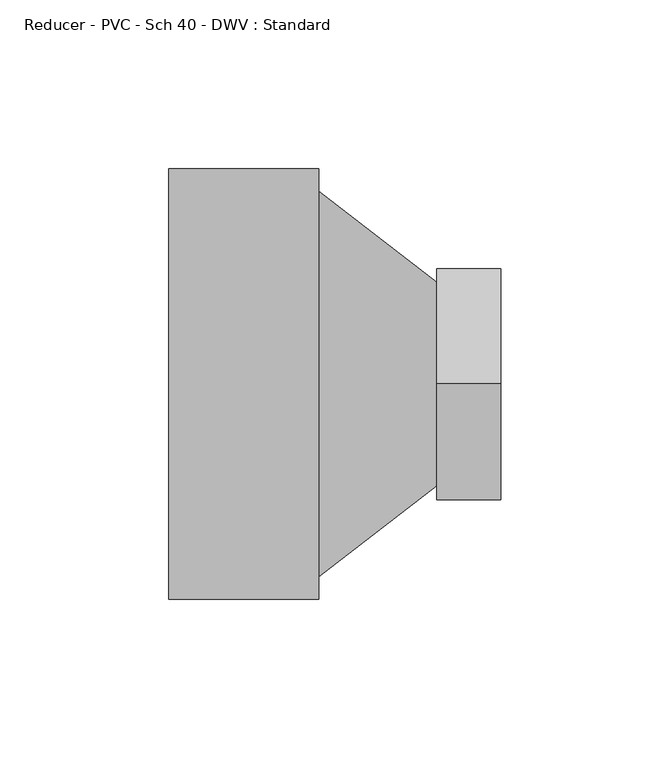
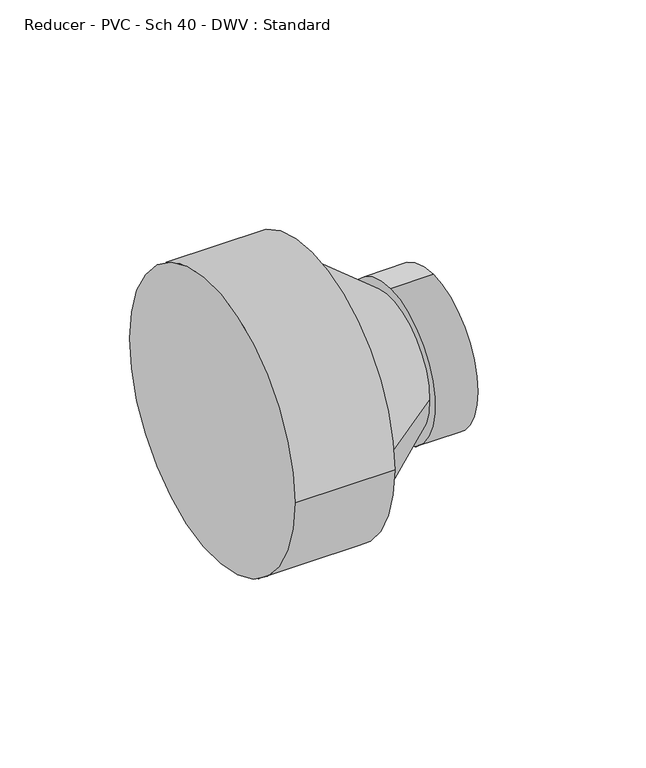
"""IFC4 building model written with IfcOpenShell, lengths in millimetres: pipe fitting geometry, Reducer - PVC - Sch 40 - DWV : Standard."""

from ifc_helpers import new_model, si_unit, frame, origin, place, context, project, spatial, circle_curve, source, transform, mapped, element, save
from ifc_brep_helpers import plane_surface, cylinder_surface, spline_surface, advanced_brep


def reducer_pvc_sch_40_dwv_standard_82007f57(model_context):
    return source(origin(), model_context, "Body", "AdvancedBrep", [
        advanced_brep(
        [(0.0, 63.754, 0.0), (0.0, -63.754, 0.0), (44.45, 63.754, 0.0), (44.45, -63.754, 0.0), (44.45, -57.15, 0.0), (44.45, 57.15, 0.0), (79.375, 30.1706806, 9.92e-05), (79.375, -30.1543194, 9.92e-05), (79.375, 0.0081806, 34.3154992), (79.375, 0.0081806, -34.3153008), (98.425, 0.0081806, 34.3154992), (98.425, 0.0081806, -34.3153008)],
        [
            (0, 1, circle_curve(frame((0.0, 0.0, 0.0), z_axis=(-1.0, 0.0, 0.0), x_axis=(0.0, -1.0, 0.0)), 63.754)),
            (1, 0, circle_curve(frame((0.0, 0.0, 0.0), z_axis=(-1.0, 0.0, 0.0), x_axis=(0.0, -1.0, 0.0)), 63.754)),
            (2, 3, circle_curve(frame((44.45, 0.0, 0.0), z_axis=(1.0, 0.0, 0.0), x_axis=(0.0, -1.0, 0.0)), 63.754)),
            (3, 2, circle_curve(frame((44.45, 0.0, 0.0), z_axis=(1.0, 0.0, 0.0), x_axis=(0.0, -1.0, 0.0)), 63.754)),
            (4, 5, circle_curve(frame((44.45, 0.0, 0.0), z_axis=(-1.0, 0.0, 0.0), x_axis=(0.0, -1.0, 0.0)), 57.15)),
            (5, 4, circle_curve(frame((44.45, 0.0, 0.0), z_axis=(-1.0, 0.0, 0.0), x_axis=(0.0, -1.0, 0.0)), 57.15)),
            (1, 3),
            (2, 0),
            (5, 6),
            (6, 7, circle_curve(frame((79.375, 0.0081806, 9.92e-05), z_axis=(-1.0, 0.0, 0.0), x_axis=(0.0, -1.0, 0.0)), 30.1625)),
            (7, 4),
            (7, 6, circle_curve(frame((79.375, 0.0081806, 9.92e-05), z_axis=(-1.0, 0.0, 0.0), x_axis=(0.0, -1.0, 0.0)), 30.1625)),
            (8, 9, circle_curve(frame((79.375, 0.0081806, 9.92e-05), z_axis=(-1.0, 0.0, 0.0), x_axis=(0.0, 0.0, -1.0)), 34.3154)),
            (9, 8, circle_curve(frame((79.375, 0.0081806, 9.92e-05), z_axis=(-1.0, 0.0, 0.0), x_axis=(0.0, 0.0, -1.0)), 34.3154)),
            (10, 11, circle_curve(frame((98.425, 0.0081806, 9.92e-05), z_axis=(1.0, 0.0, 0.0), x_axis=(0.0, 0.0, -1.0)), 34.3154)),
            (11, 10, circle_curve(frame((98.425, 0.0081806, 9.92e-05), z_axis=(1.0, 0.0, 0.0), x_axis=(0.0, 0.0, -1.0)), 34.3154)),
            (9, 11),
            (10, 8),
        ],
        [
            plane_surface(frame((0.0, 0.0, 0.0), z_axis=(-1.0, 0.0, 0.0), x_axis=(0.0, 0.0, 1.0))),
            plane_surface(frame((44.45, 0.0, 0.0), z_axis=(1.0, 0.0, 0.0), x_axis=(0.0, 0.0, 1.0))),
            cylinder_surface(frame((0.0, 0.0, 0.0), z_axis=(-1.0, 0.0, 0.0), x_axis=(0.0, -1.0, 0.0)), 63.754),
            spline_surface(1, 2, [[(44.45, 57.15, 0.0), (44.45, 57.15, -57.15), (44.45, 0.0, -57.15), (44.45, -57.15, -57.15), (44.45, -57.15, 0.0)], [(79.375, 30.1706806, 9.92e-05), (79.375, 30.1706806, -30.1624008), (79.375, 0.0081806, -30.1624008), (79.375, -30.154319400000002, -30.1624008), (79.375, -30.1543194, 9.92e-05)]], [2, 2], [3, 2, 3], [0.0, 1.0], [0.0, 1.0, 2.0], weights=[[1.0, 0.7071067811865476, 1.0, 0.7071067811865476, 1.0], [1.0, 0.7071067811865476, 1.0, 0.7071067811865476, 1.0]]),
            spline_surface(1, 2, [[(44.45, -57.15, 0.0), (44.45, -57.15, 57.15), (44.45, 0.0, 57.15), (44.45, 57.15, 57.15), (44.45, 57.15, 0.0)], [(79.375, -30.1543194, 9.92e-05), (79.375, -30.1543194, 30.1625992), (79.375, 0.0081806, 30.1625992), (79.375, 30.170680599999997, 30.1625992), (79.375, 30.1706806, 9.92e-05)]], [2, 2], [3, 2, 3], [0.0, 1.0], [0.0, 1.0, 2.0], weights=[[1.0, 0.7071067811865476, 1.0, 0.7071067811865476, 1.0], [1.0, 0.7071067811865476, 1.0, 0.7071067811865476, 1.0]]),
            plane_surface(frame((79.375, 0.0081806, 9.92e-05), z_axis=(-1.0, 0.0, 0.0), x_axis=(0.0, -1.0, 0.0))),
            plane_surface(frame((98.425, 0.0081806, 9.92e-05), z_axis=(1.0, 0.0, 0.0), x_axis=(0.0, -1.0, 0.0))),
            cylinder_surface(frame((79.375, 0.0081806, 9.92e-05), z_axis=(-1.0, 0.0, 0.0), x_axis=(0.0, 0.0, -1.0)), 34.3154),
        ],
        [
            (0, [[1, 2]]),
            (1, [[3, 4], [5, 6]]),
            (2, [[7, -3, 8, -2]]),
            (2, [[-8, -4, -7, -1]]),
            (3, [[-6, 9, 10, 11]]),
            (4, [[12, -9, -5, -11]]),
            (5, [[13, 14], [-12, -10]]),
            (6, [[15, 16]]),
            (7, [[17, -15, 18, -14]]),
            (7, [[-18, -16, -17, -13]]),
        ],
    ),
    ])


if __name__ == "__main__":
    model = new_model("IFC4")
    model_context = context("Model", 3, world=origin())
    ifc_project = project(units=[si_unit("LENGTHUNIT", "METRE", prefix="MILLI")], contexts=[model_context])
    site = spatial("IfcSite", under=ifc_project)
    building = spatial("IfcBuilding", under=site)
    placement = place(None, origin())
    reducer_pvc_sch_40_dwv_standard_shape = reducer_pvc_sch_40_dwv_standard_82007f57(model_context)
    element("IfcPipeFitting", 1, ObjectType="Reducer - PVC - Sch 40 - DWV : Standard", at=placement, inside=building, context=model_context, shape_type="MappedRepresentation", body=[
        mapped(reducer_pvc_sch_40_dwv_standard_shape, transform((0.0, 0.0, 0.0), x_axis=(1.0, 0.0, 0.0), y_axis=(0.0, 1.0, 0.0), z_axis=(0.0, 0.0, 1.0))),
    ])
    save(model, "model.ifc")
